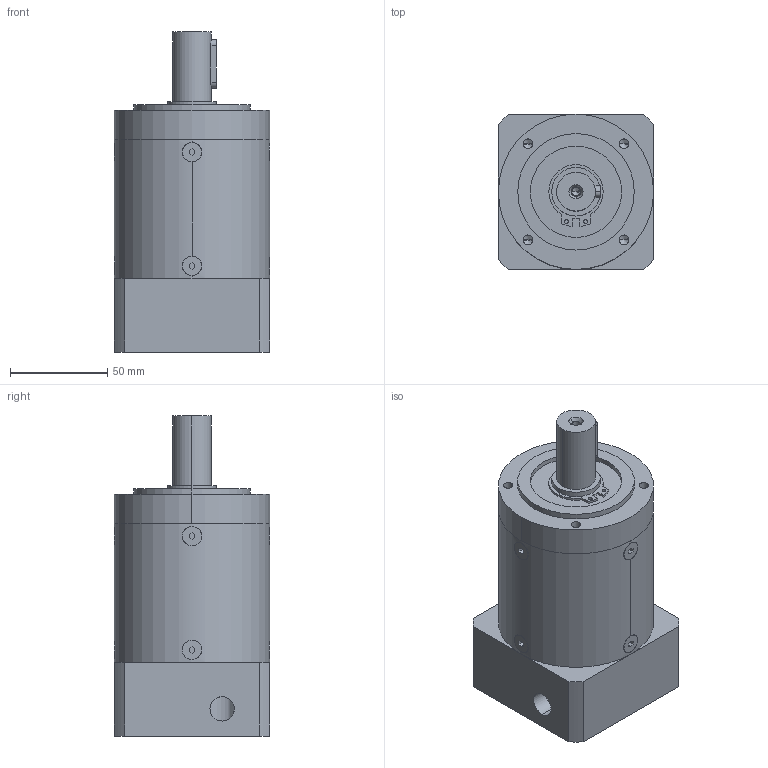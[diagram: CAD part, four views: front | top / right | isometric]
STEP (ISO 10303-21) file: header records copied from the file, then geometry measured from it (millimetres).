
FILE_DESCRIPTION (( 'STEP AP214' ), '1' );
FILE_NAME ('PRL80-L2.STEP', '2017-08-31T06:58:19', ( '微软用户' ), ( '微软中国' ), 'SwSTEP 2.0', 'SolidWorks 2014', '' );
FILE_SCHEMA (( 'AUTOMOTIVE_DESIGN' ));
Length unit declared in the file: millimetre
Products named in the file (8): PRL80 奻屳唳; PRL80-L2; 粣創-6006 30x55x13; 邧埴瑩 6x6x25; PRF80 蟀諉啣-梓袧; 囀鞠褒蹟佪-M5℅20; PRF80 内齿圈_二级内齿圈; PRF80 薊粣ん_D7-19 梓袧
Assembly tree (7 placements, depth 2):
  PRL80-L2
    PRL80 奻屳唳
    PRF80 薊粣ん_D7-19 梓袧
    PRF80 内齿圈_二级内齿圈
    囀鞠褒蹟佪-M5℅20
    PRF80 蟀諉啣-梓袧
    邧埴瑩 6x6x25
    粣創-6006 30x55x13
Bounding box: 80.1 x 80.1 x 165 mm (x, y, z)
Volume: 614104.3 mm3; surface area: 113766.1 mm2
Topology: 7 solids, 7 shells, 495 faces, 1352 edges, 877 vertices
Faces by surface type: plane 167, cylinder 160, sphere 88, torus 48, cone 32
Entity records: 21874 total; most frequent: CARTESIAN_POINT 7342, ORIENTED_EDGE 2652, DIRECTION 2540, EDGE_CURVE 1326, AXIS2_PLACEMENT_3D 1055, VERTEX_POINT 877, EDGE_LOOP 583, CIRCLE 550
